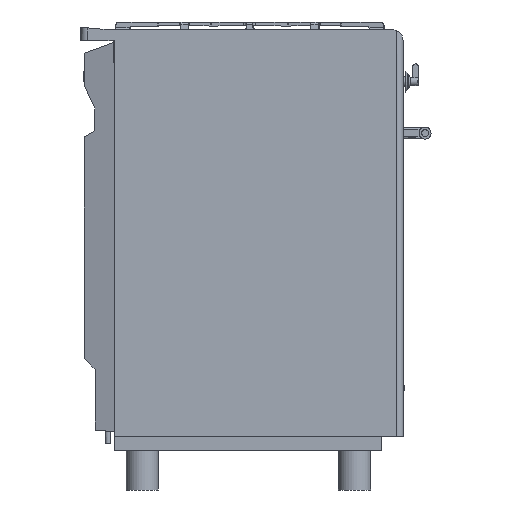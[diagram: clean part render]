
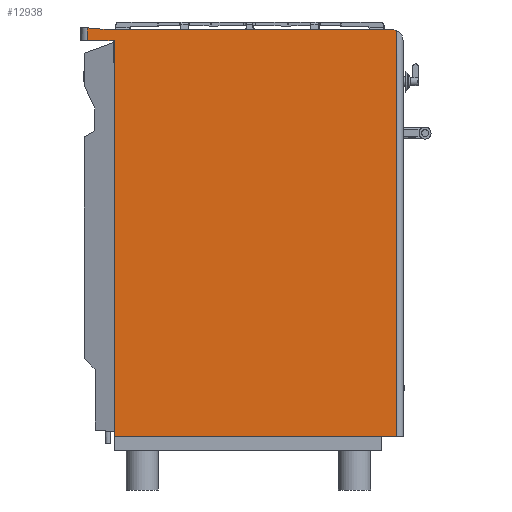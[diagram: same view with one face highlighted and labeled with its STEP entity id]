
A CAD part, front view. The second image highlights one B-rep face of the part: STEP entity #12938.
In plain terms, the highlighted planar face has unit normal (0, -1, 0).
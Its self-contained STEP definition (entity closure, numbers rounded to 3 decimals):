
#1073=CIRCLE('',#16660,20.);
#1550=ORIENTED_EDGE('',*,*,#5418,.T.);
#1551=ORIENTED_EDGE('',*,*,#5419,.T.);
#1552=ORIENTED_EDGE('',*,*,#5420,.T.);
#1553=ORIENTED_EDGE('',*,*,#5421,.T.);
#1554=ORIENTED_EDGE('',*,*,#5422,.F.);
#1555=ORIENTED_EDGE('',*,*,#5423,.F.);
#1556=ORIENTED_EDGE('',*,*,#5417,.F.);
#1557=ORIENTED_EDGE('',*,*,#5424,.T.);
#5417=EDGE_CURVE('',#7361,#7347,#8681,.T.);
#5418=EDGE_CURVE('',#7362,#7363,#8682,.T.);
#5419=EDGE_CURVE('',#7363,#7364,#1073,.T.);
#5420=EDGE_CURVE('',#7364,#7365,#8683,.T.);
#5421=EDGE_CURVE('',#7365,#7366,#8684,.T.);
#5422=EDGE_CURVE('',#7367,#7366,#8685,.T.);
#5423=EDGE_CURVE('',#7347,#7367,#8686,.T.);
#5424=EDGE_CURVE('',#7361,#7362,#8687,.T.);
#7347=VERTEX_POINT('',#22126);
#7361=VERTEX_POINT('',#22161);
#7362=VERTEX_POINT('',#22165);
#7363=VERTEX_POINT('',#22166);
#7364=VERTEX_POINT('',#22168);
#7365=VERTEX_POINT('',#22170);
#7366=VERTEX_POINT('',#22172);
#7367=VERTEX_POINT('',#22174);
#8681=LINE('',#22162,#9702);
#8682=LINE('',#22164,#9703);
#8683=LINE('',#22169,#9704);
#8684=LINE('',#22171,#9705);
#8685=LINE('',#22173,#9706);
#8686=LINE('',#22175,#9707);
#8687=LINE('',#22176,#9708);
#9702=VECTOR('',#18197,1000.);
#9703=VECTOR('',#18200,1000.);
#9704=VECTOR('',#18203,1000.);
#9705=VECTOR('',#18204,1000.);
#9706=VECTOR('',#18205,1000.);
#9707=VECTOR('',#18206,1000.);
#9708=VECTOR('',#18207,1000.);
#10698=EDGE_LOOP('',(#1550,#1551,#1552,#1553,#1554,#1555,#1556,#1557));
#11653=FACE_BOUND('',#10698,.T.);
#12566=PLANE('',#16659);
#12938=ADVANCED_FACE('',(#11653),#12566,.T.);
#16659=AXIS2_PLACEMENT_3D('',#22163,#18198,#18199);
#16660=AXIS2_PLACEMENT_3D('',#22167,#18201,#18202);
#18197=DIRECTION('',(0.,0.,1.));
#18198=DIRECTION('',(0.,-1.,0.));
#18199=DIRECTION('',(-1.,0.,0.));
#18200=DIRECTION('',(0.,0.,1.));
#18201=DIRECTION('',(0.,-1.,0.));
#18202=DIRECTION('',(-0.707,0.,-0.707));
#18203=DIRECTION('',(-1.,0.,0.));
#18204=DIRECTION('',(-0.996,0.,0.087));
#18205=DIRECTION('',(0.,0.,1.));
#18206=DIRECTION('',(-1.,0.,0.));
#18207=DIRECTION('',(1.,0.,0.));
#22126=CARTESIAN_POINT('',(-499.211,482.014,550.39));
#22161=CARTESIAN_POINT('',(-499.211,482.014,-177.61));
#22162=CARTESIAN_POINT('',(-499.211,482.014,-177.61));
#22163=CARTESIAN_POINT('',(-499.211,482.014,-177.61));
#22164=CARTESIAN_POINT('',(19.789,482.014,-177.61));
#22165=CARTESIAN_POINT('',(19.789,482.014,-177.61));
#22166=CARTESIAN_POINT('',(19.789,482.014,568.72));
#22167=CARTESIAN_POINT('',(11.789,482.014,550.39));
#22168=CARTESIAN_POINT('',(11.789,482.014,570.39));
#22169=CARTESIAN_POINT('',(11.789,482.014,570.39));
#22170=CARTESIAN_POINT('',(-510.211,482.014,570.39));
#22171=CARTESIAN_POINT('',(-510.211,482.014,570.39));
#22172=CARTESIAN_POINT('',(-548.211,482.014,573.714));
#22173=CARTESIAN_POINT('',(-548.211,482.014,550.39));
#22174=CARTESIAN_POINT('',(-548.211,482.014,550.39));
#22175=CARTESIAN_POINT('',(19.789,482.014,550.39));
#22176=CARTESIAN_POINT('',(-499.211,482.014,-177.61));
